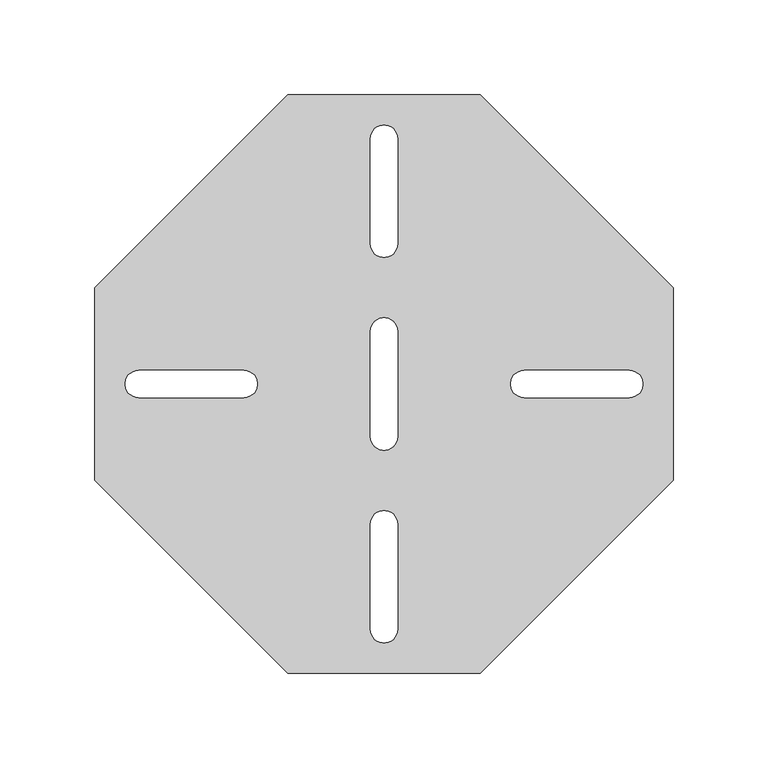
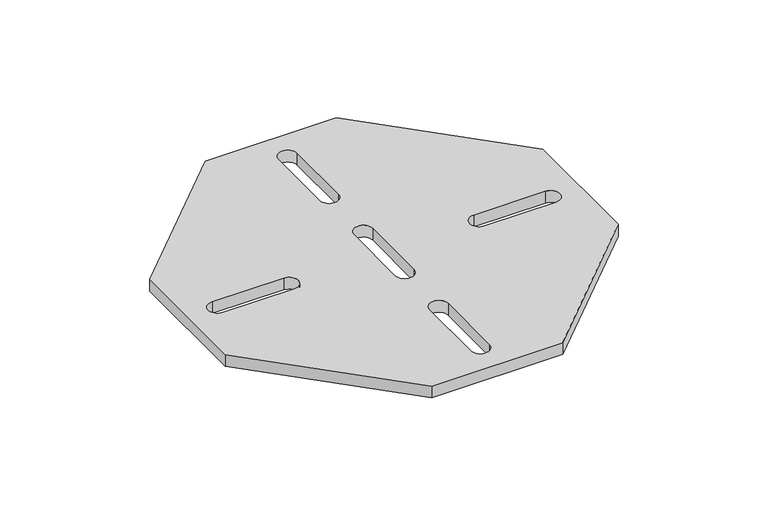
"""IFC4 building model written with IfcOpenShell, lengths in millimetres: proxy geometry, 14NSF-P34 : 14NSF-P34."""

from ifc_helpers import new_model, si_unit, point, frame_2d, origin, origin_with_axes, place, context, project, spatial, polyline, circle_curve, trimmed, segment, composite_curve, outline, extrude, source, transform, mapped, element, save


def generic_models_576d6bb0(model_context):
    return source(origin(), model_context, "Body", "SweptSolid", [
        extrude(outline(polyline([(50.8, 152.4), (152.4, 50.8), (152.4, -50.8), (50.8, -152.4), (-50.8, -152.4), (-152.4, -50.8), (-152.4, 50.8), (-50.8, 152.4), (50.8, 152.4)]), holes=[composite_curve([segment(polyline([(-7.14375, 129.38125), (-7.14375, 73.81875)]), True, "CONTINUOUS"), segment(trimmed(circle_curve(frame_2d((0.0, 73.81875)), 7.14375), [point((-7.14375, 73.81875))], [point((7.14375, 73.81875))], True, "CARTESIAN"), True, "CONTINUOUS"), segment(polyline([(7.14375, 73.81875), (7.14375, 129.38125)]), True, "CONTINUOUS"), segment(trimmed(circle_curve(frame_2d((0.0, 129.38125)), 7.14375), [point((7.14375, 129.38125))], [point((-7.14375, 129.38125))], True, "CARTESIAN"), True, "CONTINUOUS")], self_intersect=False), composite_curve([segment(polyline([(-7.14375, 27.78125), (-7.14375, -27.78125)]), True, "CONTINUOUS"), segment(trimmed(circle_curve(frame_2d((0.0, -27.78125)), 7.14375), [point((-7.14375, -27.78125))], [point((7.14375, -27.78125))], True, "CARTESIAN"), True, "CONTINUOUS"), segment(polyline([(7.14375, -27.78125), (7.14375, 27.78125)]), True, "CONTINUOUS"), segment(trimmed(circle_curve(frame_2d((0.0, 27.78125)), 7.14375), [point((7.14375, 27.78125))], [point((-7.14375, 27.78125))], True, "CARTESIAN"), True, "CONTINUOUS")], self_intersect=False), composite_curve([segment(polyline([(-7.14375, -73.81875), (-7.14375, -129.38125)]), True, "CONTINUOUS"), segment(trimmed(circle_curve(frame_2d((0.0, -129.38125)), 7.14375), [point((-7.14375, -129.38125))], [point((7.14375, -129.38125))], True, "CARTESIAN"), True, "CONTINUOUS"), segment(polyline([(7.14375, -129.38125), (7.14375, -73.81875)]), True, "CONTINUOUS"), segment(trimmed(circle_curve(frame_2d((0.0, -73.81875)), 7.14375), [point((7.14375, -73.81875))], [point((-7.14375, -73.81875))], True, "CARTESIAN"), True, "CONTINUOUS")], self_intersect=False), composite_curve([segment(polyline([(-129.38125, -7.14375), (-73.81875, -7.14375)]), True, "CONTINUOUS"), segment(trimmed(circle_curve(frame_2d((-73.81875, 0.0)), 7.14375), [point((-73.81875, -7.14375))], [point((-73.81875, 7.14375))], True, "CARTESIAN"), True, "CONTINUOUS"), segment(polyline([(-73.81875, 7.14375), (-129.38125, 7.14375)]), True, "CONTINUOUS"), segment(trimmed(circle_curve(frame_2d((-129.38125, 0.0)), 7.14375), [point((-129.38125, 7.14375))], [point((-129.38125, -7.14375))], True, "CARTESIAN"), True, "CONTINUOUS")], self_intersect=False), composite_curve([segment(polyline([(73.81875, -7.14375), (129.38125, -7.14375)]), True, "CONTINUOUS"), segment(trimmed(circle_curve(frame_2d((129.38125, 0.0)), 7.14375), [point((129.38125, -7.14375))], [point((129.38125, 7.14375))], True, "CARTESIAN"), True, "CONTINUOUS"), segment(polyline([(129.38125, 7.14375), (73.81875, 7.14375)]), True, "CONTINUOUS"), segment(trimmed(circle_curve(frame_2d((73.81875, 0.0)), 7.14375), [point((73.81875, 7.14375))], [point((73.81875, -7.14375))], True, "CARTESIAN"), True, "CONTINUOUS")], self_intersect=False)]), origin_with_axes(), (0.0, 0.0, 1.0), 9.525),
    ])


if __name__ == "__main__":
    model = new_model("IFC4")
    model_context = context("Model", 3, world=origin())
    ifc_project = project(units=[si_unit("LENGTHUNIT", "METRE", prefix="MILLI")], contexts=[model_context])
    site = spatial("IfcSite", under=ifc_project)
    building = spatial("IfcBuilding", under=site)
    placement = place(None, origin())
    generic_models_shape = generic_models_576d6bb0(model_context)
    element("IfcBuildingElementProxy", 1, Name="14NSF-P34 : 14NSF-P34", ObjectType="14NSF-P34 : 14NSF-P34", at=placement, inside=building, context=model_context, shape_type="MappedRepresentation", body=[
        mapped(generic_models_shape, transform((0.0, 0.0, 0.0), x_axis=(1.0, 0.0, 0.0), y_axis=(0.0, 1.0, 0.0), z_axis=(0.0, 0.0, 1.0))),
    ])
    save(model, "model.ifc")
